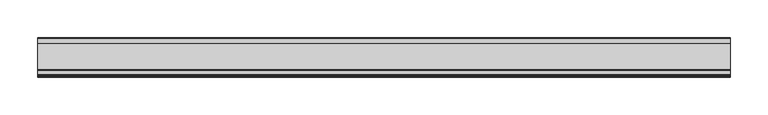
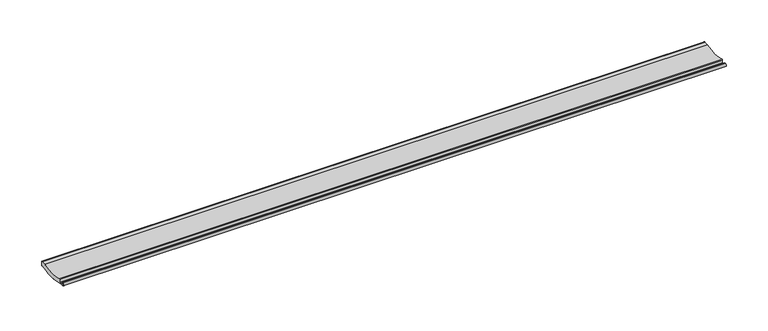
"""IFC4 building model written with IfcOpenShell, lengths in millimetres: proxy geometry, Weiku - Montante -  aleta persiana 02.2.01.305 : Weiku - Montante -  aleta persiana 02.2.01.305."""

from ifc_helpers import new_model, si_unit, point, frame, frame_2d, origin, place, context, project, spatial, polyline, circle_curve, trimmed, segment, composite_curve, outline, extrude, source, transform, mapped, element, save


def generic_models_037f082c(model_context):
    return source(origin(), model_context, "Body", "SweptSolid", [
        extrude(outline(composite_curve([segment(trimmed(circle_curve(frame_2d((-24.8563258, 51.3136844)), 49.3696856), [point((-42.3231022, 5.1370932))], [point((-7.0094119, 5.2826784))], True, "CARTESIAN"), True, "CONTINUOUS"), segment(polyline([(-7.0094119, 5.2826784), (-0.6784053, 5.2826784)]), True, "CONTINUOUS"), segment(trimmed(circle_curve(frame_2d((-0.6784053, 4.604273)), 0.6784053), [point((-0.6784053, 5.2826784))], [point((0.0, 4.604273))], False, "CARTESIAN"), True, "CONTINUOUS"), segment(polyline([(0.0, 4.604273), (0.0, -0.101989)]), True, "CONTINUOUS"), segment(trimmed(circle_curve(frame_2d((-0.8, -0.101989)), 0.8), [point((0.0, -0.101989))], [point((-0.5941175, -0.875043))], False, "CARTESIAN"), True, "CONTINUOUS"), segment(trimmed(circle_curve(frame_2d((-21.6253298, 78.0935981)), 81.7212223), [point((-0.5941175, -0.875043))], [point((-13.7866712, -3.2508153))], False, "CARTESIAN"), True, "CONTINUOUS"), segment(trimmed(circle_curve(frame_2d((-14.2816485, -3.8467778)), 0.7747088), [point((-13.7866712, -3.2508153))], [point((-14.8747096, -3.3483278))], True, "CARTESIAN"), True, "CONTINUOUS"), segment(trimmed(circle_curve(frame_2d((-21.6253298, 78.0935981)), 81.7212223), [point((-14.8747096, -3.3483278))], [point((-28.03902, -3.375554))], False, "CARTESIAN"), True, "CONTINUOUS"), segment(trimmed(circle_curve(frame_2d((-28.6558102, -3.9281482)), 0.8281247), [point((-28.03902, -3.375554))], [point((-29.1695632, -3.2786497))], True, "CARTESIAN"), True, "CONTINUOUS"), segment(trimmed(circle_curve(frame_2d((-21.6253298, 78.0935981)), 81.7212223), [point((-29.1695632, -3.2786497))], [point((-43.0, -0.7827712))], False, "CARTESIAN"), True, "CONTINUOUS"), segment(polyline([(-43.0, -0.7827712), (-43.0, 0.0), (-49.865, 0.0)]), True, "CONTINUOUS"), segment(trimmed(circle_curve(frame_2d((-49.865, 2.175)), 2.175), [point((-49.865, 0.0))], [point((-49.865, 4.35))], False, "CARTESIAN"), True, "CONTINUOUS"), segment(polyline([(-49.865, 4.35), (-48.8043398, 4.35), (-48.8043398, 3.05)]), True, "CONTINUOUS"), segment(trimmed(circle_curve(frame_2d((-49.865, 2.175)), 1.375), [point((-48.8043398, 3.05))], [point((-49.865, 0.8))], True, "CARTESIAN"), True, "CONTINUOUS"), segment(polyline([(-49.865, 0.8), (-43.0, 0.8), (-43.0, 4.6694318)]), True, "CONTINUOUS"), segment(trimmed(circle_curve(frame_2d((-42.5, 4.6694318)), 0.5), [point((-43.0, 4.6694318))], [point((-42.3231022, 5.1370932))], False, "CARTESIAN"), True, "CONTINUOUS")], self_intersect=False)), frame((-458.0, 0.0, 0.0), z_axis=(1.0, 0.0, 0.0), x_axis=(0.0, 1.0, 0.0)), (0.0, 0.0, 1.0), 916.0),
    ])


if __name__ == "__main__":
    model = new_model("IFC4")
    model_context = context("Model", 3, world=origin())
    ifc_project = project(units=[si_unit("LENGTHUNIT", "METRE", prefix="MILLI")], contexts=[model_context])
    site = spatial("IfcSite", under=ifc_project)
    building = spatial("IfcBuilding", under=site)
    placement = place(None, origin())
    generic_models_shape = generic_models_037f082c(model_context)
    element("IfcBuildingElementProxy", 1, Name="Weiku - Montante -  aleta persiana 02.2.01.305 : Weiku - Montante -  aleta persiana 02.2.01.305", ObjectType="Weiku - Montante -  aleta persiana 02.2.01.305 : Weiku - Montante -  aleta persiana 02.2.01.305", at=placement, inside=building, context=model_context, shape_type="MappedRepresentation", body=[
        mapped(generic_models_shape, transform((0.0, 0.0, 0.0), x_axis=(1.0, 0.0, 0.0), y_axis=(0.0, 1.0, 0.0), z_axis=(0.0, 0.0, 1.0))),
    ])
    save(model, "model.ifc")
